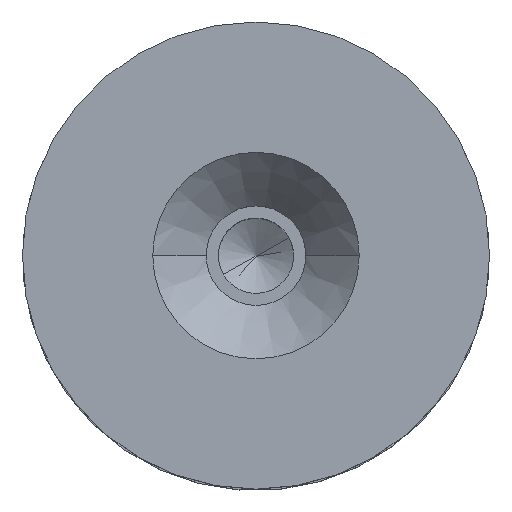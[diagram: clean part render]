
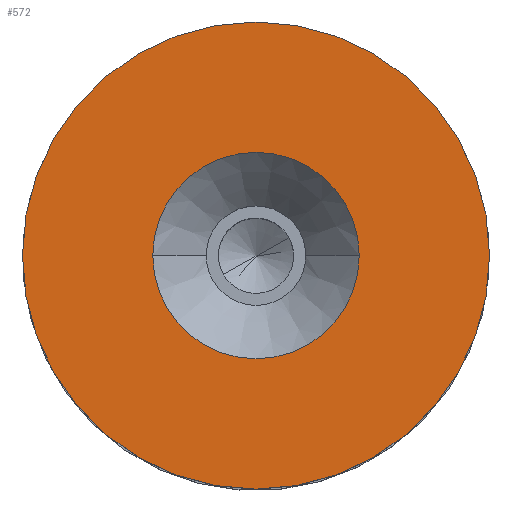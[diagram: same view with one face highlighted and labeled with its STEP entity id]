
A CAD part, top view. The second image highlights one B-rep face of the part: STEP entity #572.
In plain terms, the highlighted planar face has unit normal (0, 0, 1).
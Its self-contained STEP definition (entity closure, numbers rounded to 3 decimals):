
#3 = EDGE_CURVE ( 'NONE', #492, #95, #173, .T. ) ;
#30 = EDGE_CURVE ( 'NONE', #673, #327, #820, .T. ) ;
#40 = CIRCLE ( 'NONE', #566, 15.5 ) ;
#57 = ORIENTED_EDGE ( 'NONE', *, *, #3, .T. ) ;
#74 = DIRECTION ( 'NONE',  ( 0., 0., -1. ) ) ;
#95 = VERTEX_POINT ( 'NONE', #837 ) ;
#118 = DIRECTION ( 'NONE',  ( 1., 0., 0. ) ) ;
#173 = CIRCLE ( 'NONE', #196, 6.85 ) ;
#196 = AXIS2_PLACEMENT_3D ( 'NONE', #299, #74, #118 ) ;
#261 = CARTESIAN_POINT ( 'NONE',  ( -15.5, 0., 5. ) ) ;
#281 = AXIS2_PLACEMENT_3D ( 'NONE', #306, #309, #311 ) ;
#289 = DIRECTION ( 'NONE',  ( 1., 0., 0. ) ) ;
#292 = PLANE ( 'NONE',  #813 ) ;
#299 = CARTESIAN_POINT ( 'NONE',  ( 0., 0., 5. ) ) ;
#306 = CARTESIAN_POINT ( 'NONE',  ( 0., 0., 5. ) ) ;
#309 = DIRECTION ( 'NONE',  ( 0., 0., -1. ) ) ;
#311 = DIRECTION ( 'NONE',  ( 1., 0., 0. ) ) ;
#327 = VERTEX_POINT ( 'NONE', #826 ) ;
#349 = DIRECTION ( 'NONE',  ( 0., 0., 1. ) ) ;
#355 = CARTESIAN_POINT ( 'NONE',  ( 0., 0., 5. ) ) ;
#356 = DIRECTION ( 'NONE',  ( 0., 0., 1. ) ) ;
#357 = CIRCLE ( 'NONE', #281, 6.85 ) ;
#370 = DIRECTION ( 'NONE',  ( 1., 0., 0. ) ) ;
#389 = CARTESIAN_POINT ( 'NONE',  ( -6.85, 0., 5. ) ) ;
#390 = FACE_BOUND ( 'NONE', #444, .T. ) ;
#418 = DIRECTION ( 'NONE',  ( 1., 0., 0. ) ) ;
#433 = FACE_OUTER_BOUND ( 'NONE', #570, .T. ) ;
#434 = EDGE_CURVE ( 'NONE', #327, #673, #40, .T. ) ;
#444 = EDGE_LOOP ( 'NONE', ( #715, #57 ) ) ;
#453 = CARTESIAN_POINT ( 'NONE',  ( 0., 0., 5. ) ) ;
#492 = VERTEX_POINT ( 'NONE', #389 ) ;
#537 = EDGE_CURVE ( 'NONE', #95, #492, #357, .T. ) ;
#566 = AXIS2_PLACEMENT_3D ( 'NONE', #355, #356, #370 ) ;
#569 = ORIENTED_EDGE ( 'NONE', *, *, #434, .T. ) ;
#570 = EDGE_LOOP ( 'NONE', ( #622, #569 ) ) ;
#572 = ADVANCED_FACE ( 'NONE', ( #390, #433 ), #292, .T. ) ;
#622 = ORIENTED_EDGE ( 'NONE', *, *, #30, .T. ) ;
#638 = CARTESIAN_POINT ( 'NONE',  ( 0., 0., 5. ) ) ;
#673 = VERTEX_POINT ( 'NONE', #261 ) ;
#678 = DIRECTION ( 'NONE',  ( 0., 0., 1. ) ) ;
#715 = ORIENTED_EDGE ( 'NONE', *, *, #537, .T. ) ;
#813 = AXIS2_PLACEMENT_3D ( 'NONE', #453, #349, #289 ) ;
#820 = CIRCLE ( 'NONE', #853, 15.5 ) ;
#826 = CARTESIAN_POINT ( 'NONE',  ( 15.5, 0., 5. ) ) ;
#837 = CARTESIAN_POINT ( 'NONE',  ( 6.85, 0., 5. ) ) ;
#853 = AXIS2_PLACEMENT_3D ( 'NONE', #638, #678, #418 ) ;
